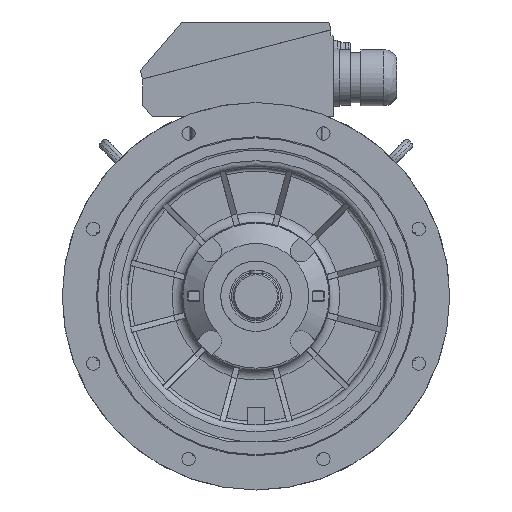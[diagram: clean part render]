
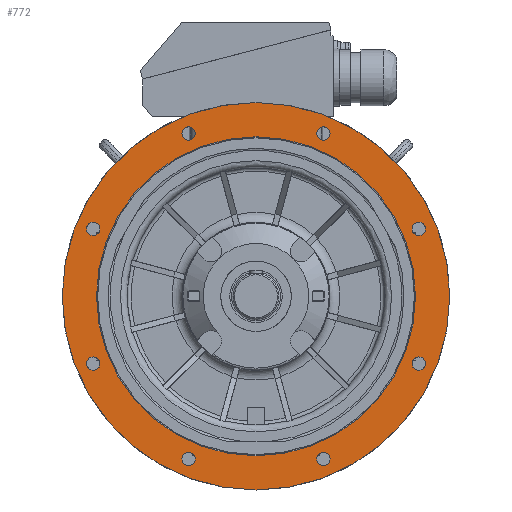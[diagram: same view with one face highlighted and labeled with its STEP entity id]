
A CAD part, front view. The second image highlights one B-rep face of the part: STEP entity #772.
In plain terms, the highlighted planar face has unit normal (0, -1, 0).
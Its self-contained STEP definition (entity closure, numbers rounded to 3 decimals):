
#772 = ADVANCED_FACE( '', ( #2257, #2258, #2259, #2260, #2261, #2262, #2263, #2264, #2265, #2266 ), #2267, .F. );
#2257 = FACE_OUTER_BOUND( '', #5130, .T. );
#2258 = FACE_BOUND( '', #5131, .T. );
#2259 = FACE_BOUND( '', #5132, .T. );
#2260 = FACE_BOUND( '', #5133, .T. );
#2261 = FACE_BOUND( '', #5134, .T. );
#2262 = FACE_BOUND( '', #5135, .T. );
#2263 = FACE_BOUND( '', #5136, .T. );
#2264 = FACE_BOUND( '', #5137, .T. );
#2265 = FACE_BOUND( '', #5138, .T. );
#2266 = FACE_BOUND( '', #5139, .T. );
#2267 = PLANE( '', #5140 );
#5130 = EDGE_LOOP( '', ( #10617 ) );
#5131 = EDGE_LOOP( '', ( #10618 ) );
#5132 = EDGE_LOOP( '', ( #10619 ) );
#5133 = EDGE_LOOP( '', ( #10620 ) );
#5134 = EDGE_LOOP( '', ( #10621 ) );
#5135 = EDGE_LOOP( '', ( #10622 ) );
#5136 = EDGE_LOOP( '', ( #10623 ) );
#5137 = EDGE_LOOP( '', ( #10624 ) );
#5138 = EDGE_LOOP( '', ( #10625 ) );
#5139 = EDGE_LOOP( '', ( #10626 ) );
#5140 = AXIS2_PLACEMENT_3D( '', #10627, #10628, #10629 );
#10617 = ORIENTED_EDGE( '', *, *, #13986, .T. );
#10618 = ORIENTED_EDGE( '', *, *, #13982, .F. );
#10619 = ORIENTED_EDGE( '', *, *, #13983, .F. );
#10620 = ORIENTED_EDGE( '', *, *, #13981, .F. );
#10621 = ORIENTED_EDGE( '', *, *, #13979, .F. );
#10622 = ORIENTED_EDGE( '', *, *, #13987, .F. );
#10623 = ORIENTED_EDGE( '', *, *, #13988, .F. );
#10624 = ORIENTED_EDGE( '', *, *, #13989, .F. );
#10625 = ORIENTED_EDGE( '', *, *, #13990, .F. );
#10626 = ORIENTED_EDGE( '', *, *, #13991, .F. );
#10627 = CARTESIAN_POINT( '', ( 226.4, -89.997, 0. ) );
#10628 = DIRECTION( '', ( 0., 1., 0. ) );
#10629 = DIRECTION( '', ( 1., 0., 0. ) );
#13979 = EDGE_CURVE( '', #17390, #17390, #17391, .T. );
#13981 = EDGE_CURVE( '', #17394, #17394, #17395, .T. );
#13982 = EDGE_CURVE( '', #17396, #17396, #17397, .T. );
#13983 = EDGE_CURVE( '', #17398, #17398, #17399, .T. );
#13986 = EDGE_CURVE( '', #17402, #17402, #17403, .T. );
#13987 = EDGE_CURVE( '', #17404, #17404, #17405, .T. );
#13988 = EDGE_CURVE( '', #17406, #17406, #17407, .T. );
#13989 = EDGE_CURVE( '', #17408, #17408, #17409, .T. );
#13990 = EDGE_CURVE( '', #17410, #17410, #17411, .T. );
#13991 = EDGE_CURVE( '', #17412, #17412, #17413, .T. );
#17390 = VERTEX_POINT( '', #24359 );
#17391 = CIRCLE( '', #24360, 9.5 );
#17394 = VERTEX_POINT( '', #24363 );
#17395 = CIRCLE( '', #24364, 9.5 );
#17396 = VERTEX_POINT( '', #24365 );
#17397 = CIRCLE( '', #24366, 226.4 );
#17398 = VERTEX_POINT( '', #24367 );
#17399 = CIRCLE( '', #24368, 9.5 );
#17402 = VERTEX_POINT( '', #24373 );
#17403 = CIRCLE( '', #24374, 275. );
#17404 = VERTEX_POINT( '', #24375 );
#17405 = CIRCLE( '', #24376, 9.5 );
#17406 = VERTEX_POINT( '', #24377 );
#17407 = CIRCLE( '', #24378, 9.5 );
#17408 = VERTEX_POINT( '', #24379 );
#17409 = CIRCLE( '', #24380, 9.5 );
#17410 = VERTEX_POINT( '', #24381 );
#17411 = CIRCLE( '', #24382, 9.5 );
#17412 = VERTEX_POINT( '', #24383 );
#17413 = CIRCLE( '', #24384, 9.5 );
#24359 = CARTESIAN_POINT( '', ( 95.671, -89.997, -221.47 ) );
#24360 = AXIS2_PLACEMENT_3D( '', #28262, #28263, #28264 );
#24363 = CARTESIAN_POINT( '', ( -95.671, -89.997, -221.47 ) );
#24364 = AXIS2_PLACEMENT_3D( '', #28268, #28269, #28270 );
#24365 = CARTESIAN_POINT( '', ( -226.4, -89.997, 0. ) );
#24366 = AXIS2_PLACEMENT_3D( '', #28271, #28272, #28273 );
#24367 = CARTESIAN_POINT( '', ( -230.97, -89.997, -86.171 ) );
#24368 = AXIS2_PLACEMENT_3D( '', #28274, #28275, #28276 );
#24373 = CARTESIAN_POINT( '', ( -275., -89.997, 0. ) );
#24374 = AXIS2_PLACEMENT_3D( '', #28279, #28280, #28281 );
#24375 = CARTESIAN_POINT( '', ( 230.97, -89.997, -86.171 ) );
#24376 = AXIS2_PLACEMENT_3D( '', #28282, #28283, #28284 );
#24377 = CARTESIAN_POINT( '', ( -95.671, -89.997, 240.47 ) );
#24378 = AXIS2_PLACEMENT_3D( '', #28285, #28286, #28287 );
#24379 = CARTESIAN_POINT( '', ( 95.671, -89.997, 240.47 ) );
#24380 = AXIS2_PLACEMENT_3D( '', #28288, #28289, #28290 );
#24381 = CARTESIAN_POINT( '', ( 230.97, -89.997, 105.171 ) );
#24382 = AXIS2_PLACEMENT_3D( '', #28291, #28292, #28293 );
#24383 = CARTESIAN_POINT( '', ( -230.97, -89.997, 105.171 ) );
#24384 = AXIS2_PLACEMENT_3D( '', #28294, #28295, #28296 );
#28262 = CARTESIAN_POINT( '', ( 95.671, -89.997, -230.97 ) );
#28263 = DIRECTION( '', ( 0., -1., 0. ) );
#28264 = DIRECTION( '', ( 0., 0., 1. ) );
#28268 = CARTESIAN_POINT( '', ( -95.671, -89.997, -230.97 ) );
#28269 = DIRECTION( '', ( 0., -1., 0. ) );
#28270 = DIRECTION( '', ( 0., 0., 1. ) );
#28271 = CARTESIAN_POINT( '', ( 0., -89.997, 0. ) );
#28272 = DIRECTION( '', ( 0., -1., 0. ) );
#28273 = DIRECTION( '', ( -1., 0., 0. ) );
#28274 = CARTESIAN_POINT( '', ( -230.97, -89.997, -95.671 ) );
#28275 = DIRECTION( '', ( 0., -1., 0. ) );
#28276 = DIRECTION( '', ( 0., 0., 1. ) );
#28279 = CARTESIAN_POINT( '', ( 0., -89.997, 0. ) );
#28280 = DIRECTION( '', ( 0., -1., 0. ) );
#28281 = DIRECTION( '', ( -1., 0., 0. ) );
#28282 = CARTESIAN_POINT( '', ( 230.97, -89.997, -95.671 ) );
#28283 = DIRECTION( '', ( 0., -1., 0. ) );
#28284 = DIRECTION( '', ( 0., 0., 1. ) );
#28285 = CARTESIAN_POINT( '', ( -95.671, -89.997, 230.97 ) );
#28286 = DIRECTION( '', ( 0., -1., 0. ) );
#28287 = DIRECTION( '', ( 0., 0., 1. ) );
#28288 = CARTESIAN_POINT( '', ( 95.671, -89.997, 230.97 ) );
#28289 = DIRECTION( '', ( 0., -1., 0. ) );
#28290 = DIRECTION( '', ( 0., 0., 1. ) );
#28291 = CARTESIAN_POINT( '', ( 230.97, -89.997, 95.671 ) );
#28292 = DIRECTION( '', ( 0., -1., 0. ) );
#28293 = DIRECTION( '', ( 0., 0., 1. ) );
#28294 = CARTESIAN_POINT( '', ( -230.97, -89.997, 95.671 ) );
#28295 = DIRECTION( '', ( 0., -1., 0. ) );
#28296 = DIRECTION( '', ( 0., 0., 1. ) );
